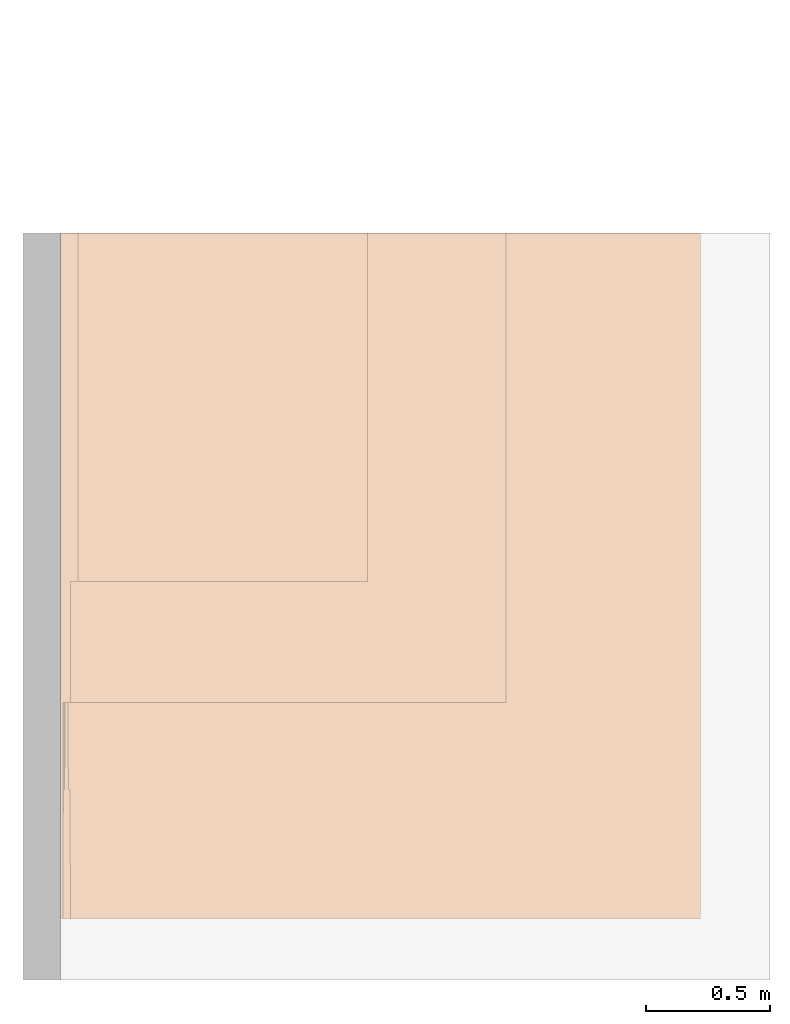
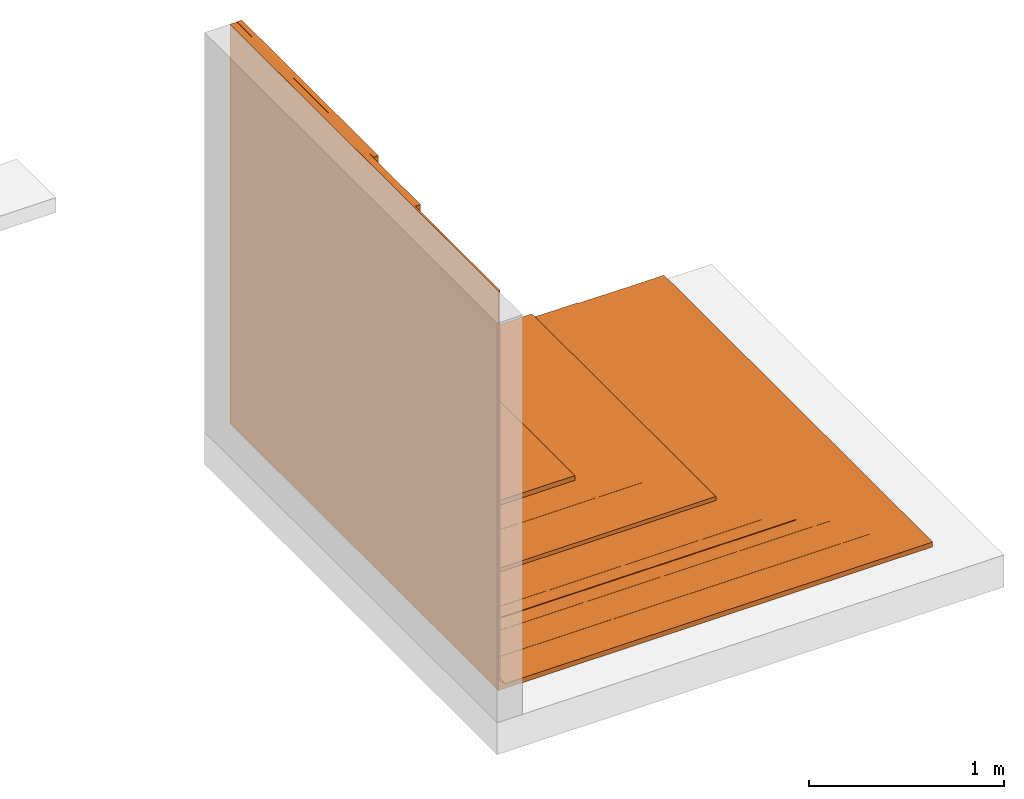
# One storey, part 2 of 2: 1 proxy.
"""IFC2X3 building model written with IfcOpenShell, lengths in metres."""

from ifc_helpers import new_model, entity, si_unit, converted_unit, derived_unit, direction, frame, frame_2d, origin, origin_2d_with_axis, place, context, subcontext, project, spatial, polyline, circle_curve, parameter, trimmed, segment, composite_curve, rectangle, outline, extrude, source, transform, mapped, material, material_list, type_object, type_shapes, element, save


model = new_model("IFC2X3")

# Units and contexts
model_context = context("Model", 3, precision=1e-05, world=origin(), true_north=direction((6.123031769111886e-17, 1.0)))
body_context = subcontext(model_context, "Body", "Model", "MODEL_VIEW")
ifc_project = project(units=[si_unit("LENGTHUNIT", "METRE"), si_unit("AREAUNIT", "SQUARE_METRE"), si_unit("VOLUMEUNIT", "CUBIC_METRE"), converted_unit("PLANEANGLEUNIT", "DEGREE", entity("IfcRatioMeasure", 0.017453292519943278), si_unit("PLANEANGLEUNIT", "RADIAN"), dimensions=[0, 0, 0, 0, 0, 0, 0]), si_unit("MASSUNIT", "GRAM", prefix="KILO"), derived_unit("MASSDENSITYUNIT", [(si_unit("MASSUNIT", "GRAM", prefix="KILO"), 1), (si_unit("LENGTHUNIT", "METRE"), -3)]), derived_unit("IONCONCENTRATIONUNIT", [(si_unit("MASSUNIT", "GRAM", prefix="KILO"), 1), (si_unit("LENGTHUNIT", "METRE"), -3)]), derived_unit("MOMENTOFINERTIAUNIT", [(si_unit("LENGTHUNIT", "METRE"), 4)]), si_unit("TIMEUNIT", "SECOND"), si_unit("FREQUENCYUNIT", "HERTZ"), si_unit("THERMODYNAMICTEMPERATUREUNIT", "DEGREE_CELSIUS"), derived_unit("THERMALTRANSMITTANCEUNIT", [(si_unit("MASSUNIT", "GRAM", prefix="KILO"), 1), (si_unit("THERMODYNAMICTEMPERATUREUNIT", "KELVIN"), -1), (si_unit("TIMEUNIT", "SECOND"), -3)]), derived_unit("THERMALCONDUCTANCEUNIT", [(si_unit("MASSUNIT", "GRAM", prefix="KILO"), 1), (si_unit("THERMODYNAMICTEMPERATUREUNIT", "KELVIN"), -1), (si_unit("TIMEUNIT", "SECOND"), -3), (si_unit("LENGTHUNIT", "METRE"), 1)]), derived_unit("VOLUMETRICFLOWRATEUNIT", [(si_unit("LENGTHUNIT", "METRE"), 3), (si_unit("TIMEUNIT", "SECOND"), -1)]), derived_unit("MASSFLOWRATEUNIT", [(si_unit("MASSUNIT", "GRAM", prefix="KILO"), 1), (si_unit("TIMEUNIT", "SECOND"), -1)]), derived_unit("ROTATIONALFREQUENCYUNIT", [(si_unit("TIMEUNIT", "SECOND"), -1)]), si_unit("ELECTRICCURRENTUNIT", "AMPERE"), si_unit("ELECTRICVOLTAGEUNIT", "VOLT"), si_unit("POWERUNIT", "WATT"), si_unit("FORCEUNIT", "NEWTON", prefix="KILO"), si_unit("ILLUMINANCEUNIT", "LUX"), si_unit("LUMINOUSFLUXUNIT", "LUMEN"), si_unit("LUMINOUSINTENSITYUNIT", "CANDELA"), derived_unit("USERDEFINED", [(si_unit("MASSUNIT", "GRAM", prefix="KILO"), -1), (si_unit("LENGTHUNIT", "METRE"), -2), (si_unit("TIMEUNIT", "SECOND"), 3), (si_unit("LUMINOUSFLUXUNIT", "LUMEN"), 1)]), derived_unit("USERDEFINED", [(si_unit("MASSUNIT", "GRAM", prefix="KILO"), 1), (si_unit("TIMEUNIT", "SECOND"), -3), (si_unit("LENGTHUNIT", "METRE"), 3), (si_unit("ELECTRICCURRENTUNIT", "AMPERE"), -2)]), derived_unit("SOUNDPOWERUNIT", [(si_unit("MASSUNIT", "GRAM", prefix="KILO"), 1), (si_unit("TIMEUNIT", "SECOND"), -3), (si_unit("LENGTHUNIT", "METRE"), 2)]), derived_unit("SOUNDPRESSUREUNIT", [(si_unit("MASSUNIT", "GRAM", prefix="KILO"), 1), (si_unit("LENGTHUNIT", "METRE"), -1), (si_unit("TIMEUNIT", "SECOND"), -2)]), derived_unit("LINEARVELOCITYUNIT", [(si_unit("LENGTHUNIT", "METRE"), 1), (si_unit("TIMEUNIT", "SECOND"), -1)]), si_unit("PRESSUREUNIT", "PASCAL"), derived_unit("USERDEFINED", [(si_unit("MASSUNIT", "GRAM", prefix="KILO"), 1), (si_unit("LENGTHUNIT", "METRE"), -2), (si_unit("TIMEUNIT", "SECOND"), -2)]), derived_unit("LINEARFORCEUNIT", [(si_unit("MASSUNIT", "GRAM", prefix="KILO"), 1), (si_unit("TIMEUNIT", "SECOND"), -2)]), derived_unit("PLANARFORCEUNIT", [(si_unit("MASSUNIT", "GRAM", prefix="KILO"), 1), (si_unit("LENGTHUNIT", "METRE"), -1), (si_unit("TIMEUNIT", "SECOND"), -2)]), derived_unit("SPECIFICHEATCAPACITYUNIT", [(si_unit("THERMODYNAMICTEMPERATUREUNIT", "KELVIN"), -1), (si_unit("LENGTHUNIT", "METRE"), 2), (si_unit("TIMEUNIT", "SECOND"), -2)]), derived_unit("HEATINGVALUEUNIT", [(si_unit("LENGTHUNIT", "METRE"), 2), (si_unit("TIMEUNIT", "SECOND"), -2)]), derived_unit("VAPORPERMEABILITYUNIT", [(si_unit("LENGTHUNIT", "METRE"), -1), (si_unit("TIMEUNIT", "SECOND"), 1)]), derived_unit("DYNAMICVISCOSITYUNIT", [(si_unit("MASSUNIT", "GRAM", prefix="KILO"), 1), (si_unit("TIMEUNIT", "SECOND"), -1), (si_unit("LENGTHUNIT", "METRE"), -1)]), derived_unit("THERMALEXPANSIONCOEFFICIENTUNIT", [(si_unit("THERMODYNAMICTEMPERATUREUNIT", "KELVIN"), -1)]), derived_unit("MODULUSOFELASTICITYUNIT", [(si_unit("MASSUNIT", "GRAM", prefix="KILO"), 1), (si_unit("LENGTHUNIT", "METRE"), -1), (si_unit("TIMEUNIT", "SECOND"), -2)]), derived_unit("ISOTHERMALMOISTURECAPACITYUNIT", [(si_unit("LENGTHUNIT", "METRE"), 3), (si_unit("MASSUNIT", "GRAM", prefix="KILO"), -1)]), derived_unit("MOISTUREDIFFUSIVITYUNIT", [(si_unit("TIMEUNIT", "SECOND"), -1), (si_unit("LENGTHUNIT", "METRE"), 2)])], contexts=[model_context])

# Site, building, storey
site_placement = place(None, origin())
site = spatial("IfcSite", under=ifc_project, at=site_placement, Name="Default", CompositionType="ELEMENT")
building_placement = place(site_placement, origin())
building = spatial("IfcBuilding", under=site, at=building_placement, CompositionType="ELEMENT")
storey_placement = place(building_placement, frame((0.0, 0.0, -0.0025237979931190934)))
storey = spatial("IfcBuildingStorey", under=building, at=storey_placement, Name="ARQ Térreo", CompositionType="ELEMENT", Elevation=-0.0025237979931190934)

# Proxy
ifc_material_1 = material(Name="#nbr")
ifc_material_2 = material(Name="#XPS")
ifc_material_3 = material(Name="#Vitkote Elastic")
ifc_material_4 = material(Name="#argamassa")
ifc_material_5 = material(Name="#Primer Adeflex")
ifc_material_6 = material(Name="# Torodin 4mm - TIPO III - Classe A")
ifc_material_7 = material(Name="#proteção mecânica")
ifc_material_8 = material(Name="#Tela Plástica")
ifc_material_9 = material(Name="#camada separadora")
ifc_material_10 = material(Name="#selante")
ifc_material_list = material_list([ifc_material_1, ifc_material_2, ifc_material_3, ifc_material_4, ifc_material_5, ifc_material_6, ifc_material_7, ifc_material_8, ifc_material_9, ifc_material_10])
building_element_proxy_type = type_object("IfcBuildingElementProxyType", Name="IMPER:IMPER", PredefinedType="NOTDEFINED", material=ifc_material_list)
shared_shape = source(origin(), body_context, "Body", "SweptSolid", [
    extrude(outline(composite_curve([segment(polyline([(-0.01507373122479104, -0.4784082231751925), (0.09068865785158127, -0.4784082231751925)]), True, "CONTINUOUS"), segment(polyline([(0.09068865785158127, -0.4784082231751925), (0.09068865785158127, -0.4774082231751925)]), True, "CONTINUOUS"), segment(polyline([(0.09068865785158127, -0.4774082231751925), (-0.01505821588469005, -0.4774082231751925)]), True, "CONTINUOUS"), segment(trimmed(circle_curve(frame_2d((-0.014337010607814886, -0.4544195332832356), x_axis=(0.0, 1.0)), 0.02299999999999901), [parameter(92.70716054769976)], [parameter(178.2030959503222)], True, "PARAMETER"), False, "CONTINUOUS"), segment(polyline([(-0.03731134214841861, -0.4555058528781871), (-0.037311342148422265, 1.4113339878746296)]), True, "CONTINUOUS"), segment(polyline([(-0.037311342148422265, 1.4113339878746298), (-0.03831134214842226, 1.4113339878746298)]), True, "CONTINUOUS"), segment(polyline([(-0.03831134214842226, 1.4113339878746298), (-0.038311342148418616, -0.45552923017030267)]), True, "CONTINUOUS"), segment(trimmed(circle_curve(frame_2d((-0.014337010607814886, -0.4544195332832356), x_axis=(0.0, 1.0)), 0.02399999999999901), [parameter(92.65015103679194)], [parameter(178.2409327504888)], True, "PARAMETER"), True, "CONTINUOUS")], self_intersect=False)), frame((0.14244912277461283, -2.0049615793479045, 0.07181321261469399), z_axis=(0.0, 1.0, 0.0), x_axis=(0.0, 0.0, 1.0)), (0.0, 0.0, 1.0), 2.1508315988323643),
    extrude(outline(composite_curve([segment(polyline([(-0.013628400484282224, -0.5571210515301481), (0.09620711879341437, -0.5571210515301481)]), True, "CONTINUOUS"), segment(polyline([(0.09620711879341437, -0.5571210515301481), (0.09620711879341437, -0.5561210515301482)]), True, "CONTINUOUS"), segment(polyline([(0.09620711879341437, -0.5561210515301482), (-0.01361431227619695, -0.5561210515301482)]), True, "CONTINUOUS"), segment(trimmed(circle_curve(frame_2d((-0.012818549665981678, -0.5281323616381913), x_axis=(0.0, 1.0)), 0.027999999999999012), [parameter(92.45353184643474)], [parameter(178.3714293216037)], True, "PARAMETER"), False, "CONTINUOUS"), segment(polyline([(-0.0407928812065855, -0.5293310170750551), (-0.04079288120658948, 1.642583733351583)]), True, "CONTINUOUS"), segment(polyline([(-0.04079288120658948, 1.6425837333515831), (-0.04179288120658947, 1.6425837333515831)]), True, "CONTINUOUS"), segment(polyline([(-0.04179288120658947, 1.6425837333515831), (-0.04179288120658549, -0.5293522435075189)]), True, "CONTINUOUS"), segment(trimmed(circle_curve(frame_2d((-0.012818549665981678, -0.5281323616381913), x_axis=(0.0, 1.0)), 0.028999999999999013), [parameter(92.41085211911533)], [parameter(178.39975630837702)], True, "PARAMETER"), True, "CONTINUOUS")], self_intersect=False)), frame((0.21616195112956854, -2.1838835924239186, 0.07029475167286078), z_axis=(0.0, 1.0, 0.0), x_axis=(0.0, 0.0, 1.0)), (0.0, 0.0, 1.0), 2.3297536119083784),
    extrude(outline(composite_curve([segment(polyline([(-0.2758242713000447, 0.43752881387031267), (1.471767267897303, 0.4375288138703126)]), True, "CONTINUOUS"), segment(polyline([(1.471767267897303, 0.4375288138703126), (1.471767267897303, 0.4619375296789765)]), True, "CONTINUOUS"), segment(polyline([(1.471767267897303, 0.4619375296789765), (-0.27792190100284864, 0.4619375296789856)]), True, "CONTINUOUS"), segment(trimmed(circle_curve(frame_2d((-0.2768355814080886, 0.4389631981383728), x_axis=(1.0, 0.0)), 0.02299999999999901), [parameter(92.70716054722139)], [parameter(178.20309595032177)], True, "PARAMETER"), True, "CONTINUOUS"), segment(polyline([(-0.2998242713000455, 0.439684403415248), (-0.2988242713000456, 0.439684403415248)]), True, "CONTINUOUS"), segment(polyline([(-0.2988242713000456, 0.439684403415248), (-0.29882427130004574, 0.33293752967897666)]), True, "CONTINUOUS"), segment(polyline([(-0.29882427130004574, 0.33293752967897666), (-0.3004100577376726, 0.33293752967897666)]), True, "CONTINUOUS"), segment(polyline([(-0.30041005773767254, 0.33293752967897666), (-0.3044100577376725, 0.32893752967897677)]), True, "CONTINUOUS"), segment(polyline([(-0.3044100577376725, 0.32893752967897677), (-0.3058355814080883, 0.3289375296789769)]), True, "CONTINUOUS"), segment(polyline([(-0.3058355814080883, 0.3289375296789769), (-0.30583558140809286, -2.0010258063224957)]), True, "CONTINUOUS"), segment(polyline([(-0.30583558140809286, -2.0010258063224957), (-0.27582427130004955, -2.0010258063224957)]), True, "CONTINUOUS"), segment(polyline([(-0.27582427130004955, -2.0010258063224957), (-0.27582427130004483, 0.43752881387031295)]), True, "CONTINUOUS")], self_intersect=False)), frame((-0.035134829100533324, -1.7392820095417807, 0.49643940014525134), z_axis=(0.0, 1.0, 0.0), x_axis=(1.0, 0.0, 0.0)), (0.0, 0.0, 1.0), 1.8851520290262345),
    extrude(outline(polyline([(0.0020652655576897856, -0.3692045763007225), (0.0040765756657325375, -0.3692045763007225), (0.0040765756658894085, 1.9617697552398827), (0.0030765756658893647, 1.9617697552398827), (0.003076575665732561, -0.3682045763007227), (0.0016510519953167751, -0.36820457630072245), (-0.0023489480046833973, -0.37220457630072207), (-0.0039347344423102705, -0.37220457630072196), (-0.003934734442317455, -0.4789514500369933), (-0.0029347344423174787, -0.47895145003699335), (-0.0029347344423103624, -0.37320457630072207), (-0.0019347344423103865, -0.3732045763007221), (0.0020652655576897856, -0.3692045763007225)])), frame((-0.33789383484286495, -1.9751610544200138, 0.5357064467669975), z_axis=(0.0, 1.0, 0.0), x_axis=(-1.0, 0.0, 0.0)), (0.0, 0.0, 1.0), 2.121031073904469),
    extrude(rectangle(XDim=2.7543580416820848, YDim=0.009999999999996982, at=frame_2d((0.0, 3.382710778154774e-17), x_axis=(1.0, 0.0))), frame((-0.3469704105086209, -1.2313090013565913, -0.0025237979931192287), z_axis=(0.0, 0.0, 1.0), x_axis=(0.0, -1.0, 0.0)), (0.0, 0.0, 1.0), 2.4999999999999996),
    extrude(outline(composite_curve([segment(polyline([(-1.0, -0.006000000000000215), (1.5300000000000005, -0.006000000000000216)]), True, "CONTINUOUS"), segment(polyline([(1.5300000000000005, -0.006000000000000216), (1.5300000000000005, 0.023999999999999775)]), True, "CONTINUOUS"), segment(polyline([(1.5300000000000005, 0.023999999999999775), (-1.0300000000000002, 0.023999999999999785)]), True, "CONTINUOUS"), segment(polyline([(-1.0300000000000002, 0.023999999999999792), (-1.0300000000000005, -0.03599999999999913)]), True, "CONTINUOUS"), segment(trimmed(circle_curve(frame_2d((-1.0, -0.03599999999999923), x_axis=(1.0, 0.0)), 0.029999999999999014), [parameter(90.0000000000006)], [parameter(179.99999999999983)], True, "PARAMETER"), False, "CONTINUOUS")], self_intersect=False)), frame((0.688029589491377, -2.6084880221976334, 0.021476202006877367), z_axis=(0.0, 1.0, 0.0), x_axis=(1.0, 0.0, 0.0)), (0.0, 0.0, 1.0), 2.7543580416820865),
    extrude(outline(composite_curve([segment(polyline([(-0.5865890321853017, -0.013221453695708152), (-0.5865890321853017, 0.09661406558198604)]), True, "CONTINUOUS"), segment(polyline([(-0.5865890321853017, 0.09661406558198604), (-0.5876003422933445, 0.09661406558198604)]), True, "CONTINUOUS"), segment(polyline([(-0.5876003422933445, 0.09661406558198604), (-0.5876003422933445, -0.012411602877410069)]), True, "CONTINUOUS"), segment(trimmed(circle_curve(frame_2d((-0.5576003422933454, -0.012411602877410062), x_axis=(1.0, 0.0)), 0.029999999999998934), [parameter(179.99999999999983)], [parameter(270.00000000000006)], True, "PARAMETER"), True, "CONTINUOUS"), segment(polyline([(-0.5576003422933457, -0.04241160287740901), (1.732399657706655, -0.042411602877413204)]), True, "CONTINUOUS"), segment(polyline([(1.732399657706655, -0.042411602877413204), (1.732399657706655, -0.04138593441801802)]), True, "CONTINUOUS"), segment(polyline([(1.732399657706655, -0.04138593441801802), (-0.5588202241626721, -0.04138593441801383)]), True, "CONTINUOUS"), segment(trimmed(circle_curve(frame_2d((-0.5576003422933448, -0.012411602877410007), x_axis=(1.0, 0.0)), 0.028999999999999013), [parameter(181.60024369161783)], [parameter(267.5891478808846)], True, "PARAMETER"), False, "CONTINUOUS")], self_intersect=False)), frame((0.245629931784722, -2.3859840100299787, 0.06988780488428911), z_axis=(0.0, -1.0, 0.0), x_axis=(1.0, 0.0, 0.0)), (0.0, 0.0, -1.0), 2.5318540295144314),
    extrude(outline(composite_curve([segment(polyline([(-0.5159107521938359, -0.014314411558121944), (-0.5159107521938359, 0.09144797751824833)]), True, "CONTINUOUS"), segment(polyline([(-0.5159107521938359, 0.09144797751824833), (-0.5199107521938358, 0.09544797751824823)]), True, "CONTINUOUS"), segment(polyline([(-0.5199107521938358, 0.09544797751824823), (-0.5199107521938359, -0.014373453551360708)]), True, "CONTINUOUS"), segment(trimmed(circle_curve(frame_2d((-0.4919220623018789, -0.013577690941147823), x_axis=(1.0, 0.0)), 0.027999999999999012), [parameter(181.62857067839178)], [parameter(267.54646815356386)], True, "PARAMETER"), True, "CONTINUOUS"), segment(polyline([(-0.4931207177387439, -0.041552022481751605), (1.528897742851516, -0.04155202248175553)]), True, "CONTINUOUS"), segment(polyline([(1.528897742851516, -0.04155202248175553), (1.528897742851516, -0.037552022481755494)]), True, "CONTINUOUS"), segment(polyline([(1.528897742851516, -0.037552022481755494), (-0.4930317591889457, -0.03755202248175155)]), True, "CONTINUOUS"), segment(trimmed(circle_curve(frame_2d((-0.4919220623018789, -0.013577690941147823), x_axis=(1.0, 0.0)), 0.02399999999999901), [parameter(181.75906724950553)], [parameter(267.34984896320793)], True, "PARAMETER"), False, "CONTINUOUS")], self_intersect=False)), frame((0.17995165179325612, -2.091049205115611, 0.07105389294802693), z_axis=(0.0, -1.0, 0.0), x_axis=(1.0, 0.0, 0.0)), (0.0, 0.0, -1.0), 2.2369192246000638),
    extrude(outline(polyline([(-0.5558609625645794, -0.2858827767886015), (1.8831133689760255, -0.2858827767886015), (1.8831133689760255, -0.25588277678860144), (-0.5258609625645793, -0.25588277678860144), (-0.5384609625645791, -0.2558827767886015), (-0.5384609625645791, -0.23735681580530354), (-0.5258609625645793, -0.23735681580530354), (-0.5258609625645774, 0.9070637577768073), (-0.5558609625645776, 0.9070637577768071), (-0.5558609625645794, -0.2858827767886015)])), frame((-0.025076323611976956, -1.2541299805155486, 0.6157715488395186), z_axis=(0.0, 1.0, 0.0), x_axis=(0.0, 0.0, 1.0)), (0.0, 0.0, 1.0), 1.3999999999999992),
    extrude(rectangle(XDim=1.8399790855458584, YDim=0.0009999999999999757, at=frame_2d((0.0, -3.382710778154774e-17), x_axis=(1.0, 0.0))), frame((-0.29595910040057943, -0.7741195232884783, 0.08991058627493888), z_axis=(0.0, 0.0, 1.0), x_axis=(0.0, -1.0, 0.0)), (0.0, 0.0, 1.0), 0.4),
    extrude(rectangle(XDim=1.4812644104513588, YDim=1.589332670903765, at=origin_2d_with_axis()), frame((0.4296731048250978, -0.6487963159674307, 0.05891058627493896), z_axis=(0.0, 0.0, 1.0), x_axis=(-1.0, 0.0, 0.0)), (0.0, 0.0, 1.0), 0.0009999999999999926),
    extrude(rectangle(XDim=0.01852596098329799, YDim=1.4000000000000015, at=origin_2d_with_axis()), frame((-0.2716961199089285, -0.5541299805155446, 0.07731058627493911), z_axis=(0.0, 0.0, 1.0), x_axis=(-1.0, 0.0, 0.0)), (0.0, 0.0, 1.0), 0.012599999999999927),
])
type_shapes(building_element_proxy_type, [shared_shape])
proxy_placement = place(storey_placement, frame((0.0, 0.0, 0.0025237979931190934)))
element("IfcBuildingElementProxy", 1, at=proxy_placement, inside=storey, type_object=building_element_proxy_type, material=ifc_material_list, Name="IMPER:IMPER:IMPER : IMPER:IMPER", ObjectType="IMPER:IMPER:IMPER : IMPER:IMPER", context=body_context, shape_type="MappedRepresentation", body=[
    mapped(shared_shape, transform((0.0, 0.0, 0.0), scale=1.0)),
])

save(model, "model.ifc")
